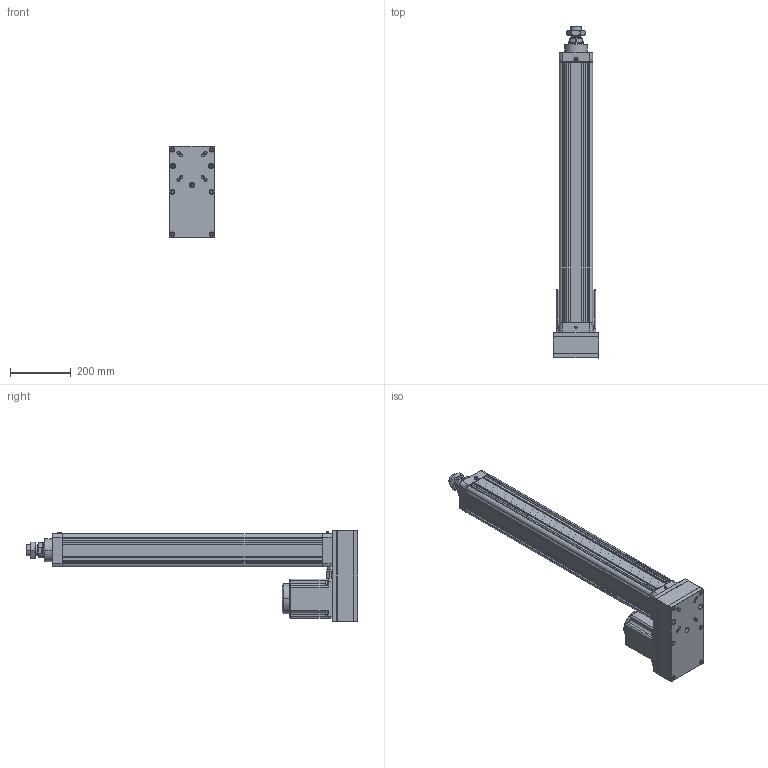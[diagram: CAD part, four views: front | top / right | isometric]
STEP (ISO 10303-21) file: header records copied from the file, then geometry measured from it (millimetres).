
FILE_DESCRIPTION((''),'2;1');
FILE_NAME('HE100-D-P_ASM','2020-03-31T',('ASUS20200'),(''),'CREO PARAMETRIC BY PTC INC, 2014190','CREO PARAMETRIC BY PTC INC, 2014190','');
FILE_SCHEMA(('CONFIG_CONTROL_DESIGN'));
Length unit declared in the file: millimetre
Products named in the file (23): HE100-D-P-001-X1; HE100-D-P-002-X1; HE100-D-P-003-X1; JDB506030; SLM-01; YZ-M6X1; HE100-100-D-P-X1_ASM; HE100-P-010-X1-130N; 130ST-M10010; HE100-P-009-X1-130N; HE100-P-013-X1-130N; TD-8; M8X35; M8X75; LM-M8-7-5; M10X1-25-40; LM-M10-30; LM-M10; HE100-D-P-005-X1; HE100-D-P-004-X1; HE80-D-P-008-X1; LGLM-M10-25; HE100-D-P_ASM
Assembly tree (39 placements, depth 3):
  HE100-D-P_ASM
    HE100-100-D-P-X1_ASM
      HE100-D-P-001-X1
      HE100-D-P-002-X1
      HE100-D-P-003-X1
      JDB506030
      SLM-01
      YZ-M6X1
    HE100-P-010-X1-130N
    130ST-M10010
    HE100-P-009-X1-130N
    HE100-P-013-X1-130N
    TD-8  x4
    M8X35  x4
    M8X75  x6
    LM-M8-7-5  x4
    M10X1-25-40
    LM-M10-30
    LM-M10
    HE100-D-P-005-X1
    HE100-D-P-004-X1
    HE80-D-P-008-X1
    LGLM-M10-25  x4
Bounding box: 150 x 1094 x 300 mm (x, y, z)
Volume: 7471696.4 mm3; surface area: 1780770.4 mm2
Topology: 38 solids, 77 shells, 2142 faces, 5009 edges, 3002 vertices
Faces by surface type: plane 766, cone 680, cylinder 600, torus 66, sphere 26, bspline 4
Entity records: 51309 total; most frequent: CARTESIAN_POINT 10160, DIRECTION 9018, ORIENTED_EDGE 7966, EDGE_CURVE 4053, AXIS2_PLACEMENT_3D 3435, VERTEX_POINT 2437, VECTOR 2148, LINE 2148
